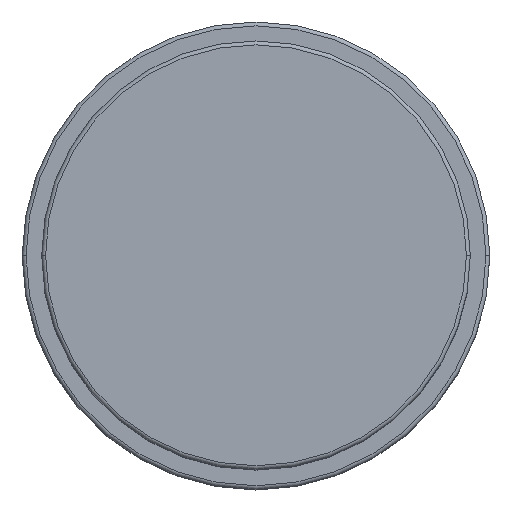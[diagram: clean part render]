
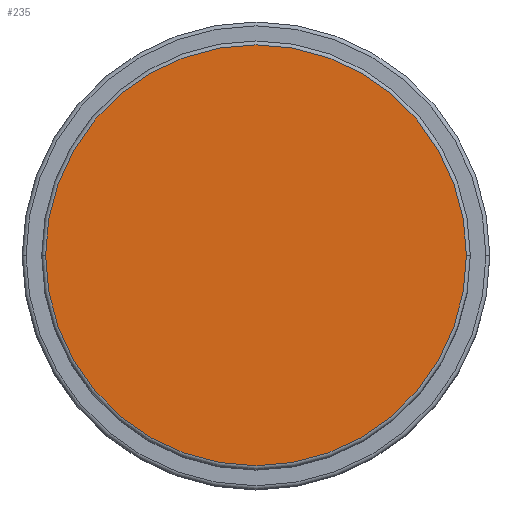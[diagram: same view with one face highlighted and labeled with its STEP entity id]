
A CAD part, top view. The second image highlights one B-rep face of the part: STEP entity #235.
In plain terms, the highlighted planar face has unit normal (0, 0, 1).
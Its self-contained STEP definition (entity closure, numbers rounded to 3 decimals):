
#72 = DIRECTION ( 'NONE',  ( 1., 0., 0. ) ) ;
#124 = FACE_OUTER_BOUND ( 'NONE', #1655, .T. ) ;
#215 = DIRECTION ( 'NONE',  ( 1., 0., 0. ) ) ;
#232 = AXIS2_PLACEMENT_3D ( 'NONE', #981, #700, #1645 ) ;
#235 = ADVANCED_FACE ( 'NONE', ( #124 ), #1558, .T. ) ;
#356 = ORIENTED_EDGE ( 'NONE', *, *, #827, .T. ) ;
#389 = VERTEX_POINT ( 'NONE', #1321 ) ;
#437 = ORIENTED_EDGE ( 'NONE', *, *, #1002, .T. ) ;
#515 = AXIS2_PLACEMENT_3D ( 'NONE', #1675, #887, #215 ) ;
#700 = DIRECTION ( 'NONE',  ( 0., 0., 1. ) ) ;
#764 = DIRECTION ( 'NONE',  ( 0., 0., 1. ) ) ;
#827 = EDGE_CURVE ( 'NONE', #389, #1161, #1069, .T. ) ;
#887 = DIRECTION ( 'NONE',  ( 0., 0., 1. ) ) ;
#941 = CIRCLE ( 'NONE', #515, 27. ) ;
#981 = CARTESIAN_POINT ( 'NONE',  ( 0., 0., 66. ) ) ;
#1002 = EDGE_CURVE ( 'NONE', #1161, #389, #941, .T. ) ;
#1069 = CIRCLE ( 'NONE', #232, 27. ) ;
#1161 = VERTEX_POINT ( 'NONE', #1454 ) ;
#1318 = CARTESIAN_POINT ( 'NONE',  ( 0., 0., 66. ) ) ;
#1321 = CARTESIAN_POINT ( 'NONE',  ( -27., 0., 66. ) ) ;
#1454 = CARTESIAN_POINT ( 'NONE',  ( 27., 0., 66. ) ) ;
#1480 = AXIS2_PLACEMENT_3D ( 'NONE', #1318, #764, #72 ) ;
#1558 = PLANE ( 'NONE',  #1480 ) ;
#1645 = DIRECTION ( 'NONE',  ( 1., 0., 0. ) ) ;
#1655 = EDGE_LOOP ( 'NONE', ( #437, #356 ) ) ;
#1675 = CARTESIAN_POINT ( 'NONE',  ( 0., 0., 66. ) ) ;
